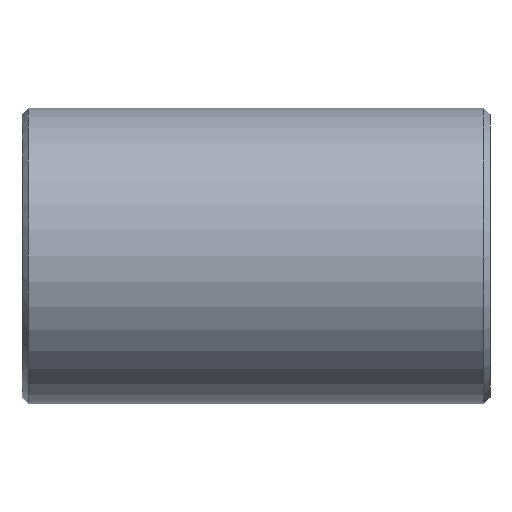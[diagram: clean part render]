
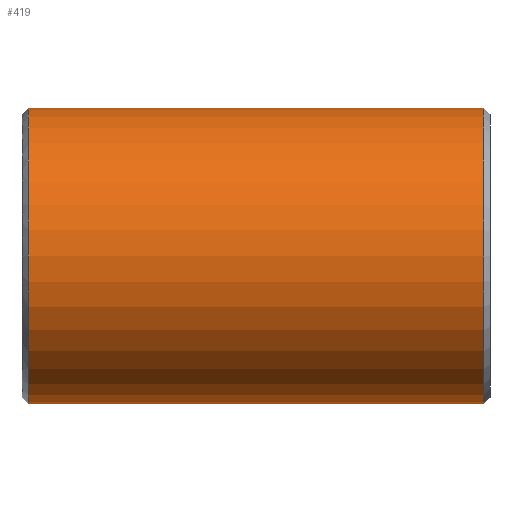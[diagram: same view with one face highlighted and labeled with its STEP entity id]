
A CAD part, front view. The second image highlights one B-rep face of the part: STEP entity #419.
In plain terms, the highlighted cylindrical face has radius 24 mm (diameter 48 mm), a partial arc.
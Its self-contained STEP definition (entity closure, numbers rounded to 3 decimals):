
#231=CARTESIAN_POINT('Vertex',(1.,0.,-24.)) ;
#238=CARTESIAN_POINT('Vertex',(1.,0.,24.)) ;
#267=CARTESIAN_POINT('Axis2P3D Location',(1.,0.,0.)) ;
#271=CARTESIAN_POINT('Vertex',(1.,-24.,0.)) ;
#274=CARTESIAN_POINT('Axis2P3D Location',(1.,0.,0.)) ;
#359=CARTESIAN_POINT('Line Origine',(76.,0.,24.)) ;
#363=CARTESIAN_POINT('Vertex',(75.,0.,24.)) ;
#377=CARTESIAN_POINT('Vertex',(75.,0.,-24.)) ;
#380=CARTESIAN_POINT('Line Origine',(76.,0.,-24.)) ;
#394=CARTESIAN_POINT('Axis2P3D Location',(76.,0.,0.)) ;
#399=CARTESIAN_POINT('Axis2P3D Location',(75.,0.,0.)) ;
#403=CARTESIAN_POINT('Vertex',(75.,-24.,0.)) ;
#406=CARTESIAN_POINT('Axis2P3D Location',(75.,0.,0.)) ;
#268=DIRECTION('Axis2P3D Direction',(1.,0.,-0.)) ;
#275=DIRECTION('Axis2P3D Direction',(1.,0.,-0.)) ;
#360=DIRECTION('Vector Direction',(-1.,0.,0.)) ;
#381=DIRECTION('Vector Direction',(-1.,0.,0.)) ;
#395=DIRECTION('Axis2P3D Direction',(-1.,-0.,-0.)) ;
#396=DIRECTION('Axis2P3D XDirection',(0.,0.,-1.)) ;
#400=DIRECTION('Axis2P3D Direction',(-1.,-0.,-0.)) ;
#407=DIRECTION('Axis2P3D Direction',(-1.,-0.,-0.)) ;
#269=AXIS2_PLACEMENT_3D('Circle Axis2P3D',#267,#268,$) ;
#276=AXIS2_PLACEMENT_3D('Circle Axis2P3D',#274,#275,$) ;
#397=AXIS2_PLACEMENT_3D('Cylinder Axis2P3D',#394,#395,#396) ;
#401=AXIS2_PLACEMENT_3D('Circle Axis2P3D',#399,#400,$) ;
#408=AXIS2_PLACEMENT_3D('Circle Axis2P3D',#406,#407,$) ;
#412=ORIENTED_EDGE('',*,*,#384,.T.) ;
#413=ORIENTED_EDGE('',*,*,#405,.F.) ;
#414=ORIENTED_EDGE('',*,*,#410,.F.) ;
#415=ORIENTED_EDGE('',*,*,#365,.T.) ;
#416=ORIENTED_EDGE('',*,*,#278,.T.) ;
#417=ORIENTED_EDGE('',*,*,#273,.T.) ;
#361=VECTOR('Line Direction',#360,1.) ;
#382=VECTOR('Line Direction',#381,1.) ;
#419=ADVANCED_FACE('352-40X76',(#418),#398,.T.) ;
#270=CIRCLE('generated circle',#269,24.) ;
#277=CIRCLE('generated circle',#276,24.) ;
#402=CIRCLE('generated circle',#401,24.) ;
#409=CIRCLE('generated circle',#408,24.) ;
#398=CYLINDRICAL_SURFACE('generated cylinder',#397,24.) ;
#273=EDGE_CURVE('',#272,#232,#270,.T.) ;
#278=EDGE_CURVE('',#239,#272,#277,.T.) ;
#365=EDGE_CURVE('',#364,#239,#362,.T.) ;
#384=EDGE_CURVE('',#232,#378,#383,.F.) ;
#405=EDGE_CURVE('',#404,#378,#402,.F.) ;
#410=EDGE_CURVE('',#364,#404,#409,.F.) ;
#411=EDGE_LOOP('',(#412,#413,#414,#415,#416,#417)) ;
#418=FACE_OUTER_BOUND('',#411,.T.) ;
#362=LINE('Line',#359,#361) ;
#383=LINE('Line',#380,#382) ;
#232=VERTEX_POINT('',#231) ;
#239=VERTEX_POINT('',#238) ;
#272=VERTEX_POINT('',#271) ;
#364=VERTEX_POINT('',#363) ;
#378=VERTEX_POINT('',#377) ;
#404=VERTEX_POINT('',#403) ;
